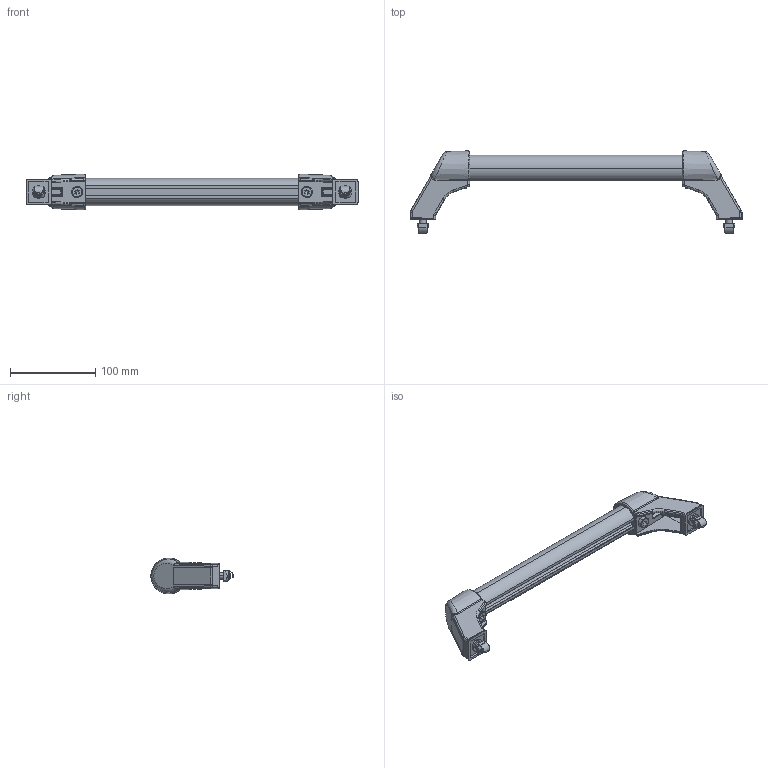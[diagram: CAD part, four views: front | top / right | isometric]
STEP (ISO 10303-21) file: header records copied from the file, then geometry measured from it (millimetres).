
FILE_DESCRIPTION (( 'STEP AP214' ), '1' );
FILE_NAME ('1.4053 Kahva 360 GL.STEP', '2025-09-10T11:01:09', ( '' ), ( '' ), 'SwSTEP 2.0', 'SolidWorks 2025', '' );
FILE_SCHEMA (( 'AUTOMOTIVE_DESIGN' ));
Length unit declared in the file: millimetre
Products named in the file (1): 1.4053 Kahva 360 GL
Bounding box: 390 x 96.59 x 41.86 mm (x, y, z)
Volume: 195445.3 mm3; surface area: 134279.5 mm2
Topology: 13 solids, 13 shells, 957 faces, 2559 edges, 1612 vertices
Faces by surface type: cylinder 452, plane 343, bspline 70, cone 40, torus 36, sphere 16
Entity records: 53885 total; most frequent: CARTESIAN_POINT 20257, ORIENTED_EDGE 5070, DIRECTION 4507, EDGE_CURVE 2535, AXIS2_PLACEMENT_3D 1630, VERTEX_POINT 1612, LINE 1247, VECTOR 1247
